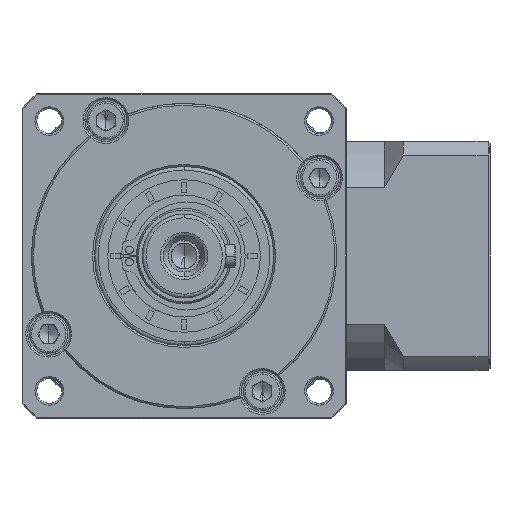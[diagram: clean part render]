
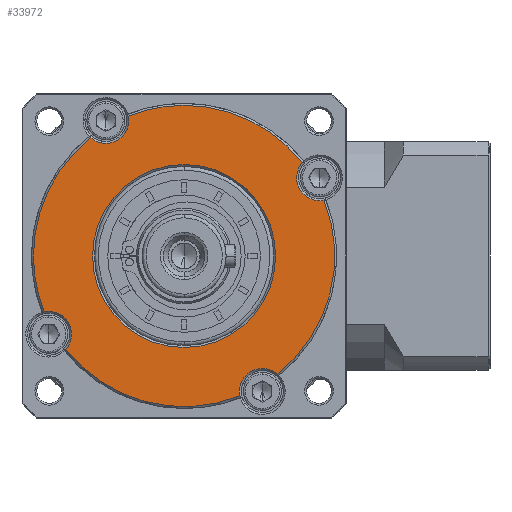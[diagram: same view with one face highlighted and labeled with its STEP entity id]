
A CAD part, left-side view. The second image highlights one B-rep face of the part: STEP entity #33972.
In plain terms, the highlighted planar face has unit normal (-1, 0, 0).
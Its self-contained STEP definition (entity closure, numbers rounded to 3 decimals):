
#184 = CIRCLE ( 'NONE', #112790, 39.5 ) ;
#6755 = DIRECTION ( 'NONE',  ( 0., 0., 1. ) ) ;
#8770 = CARTESIAN_POINT ( 'NONE',  ( -250.696, 35.181, -28.83 ) ) ;
#9344 = CARTESIAN_POINT ( 'NONE',  ( -250.696, 49.8, 7.865 ) ) ;
#9554 = CIRCLE ( 'NONE', #176601, 39.5 ) ;
#10088 = CARTESIAN_POINT ( 'NONE',  ( -250.696, 80.808, -16.605 ) ) ;
#10133 = AXIS2_PLACEMENT_3D ( 'NONE', #47979, #154420, #63245 ) ;
#11301 = PLANE ( 'NONE',  #92955 ) ;
#11965 = DIRECTION ( 'NONE',  ( 0., 0., -1. ) ) ;
#12203 = CIRCLE ( 'NONE', #71535, 39.5 ) ;
#12916 = CIRCLE ( 'NONE', #56134, 6. ) ;
#14829 = DIRECTION ( 'NONE',  ( 1., 0., 0. ) ) ;
#16557 = CIRCLE ( 'NONE', #66060, 24. ) ;
#17629 = VERTEX_POINT ( 'NONE', #47972 ) ;
#19547 = CIRCLE ( 'NONE', #36738, 6. ) ;
#24720 = DIRECTION ( 'NONE',  ( 0., -1., 0. ) ) ;
#24739 = CARTESIAN_POINT ( 'NONE',  ( -250.696, 49.8, 7.865 ) ) ;
#30775 = EDGE_CURVE ( 'NONE', #17629, #194660, #16557, .T. ) ;
#33972 = ADVANCED_FACE ( 'NONE', ( #194199, #132397 ), #11301, .T. ) ;
#34326 = ORIENTED_EDGE ( 'NONE', *, *, #192703, .T. ) ;
#35846 = CARTESIAN_POINT ( 'NONE',  ( -250.696, 25.33, -23.143 ) ) ;
#36738 = AXIS2_PLACEMENT_3D ( 'NONE', #86659, #193143, #101981 ) ;
#38368 = DIRECTION ( 'NONE',  ( 1., 0., 0. ) ) ;
#39221 = VERTEX_POINT ( 'NONE', #108881 ) ;
#39974 = DIRECTION ( 'NONE',  ( 0., 1., 0. ) ) ;
#41558 = CARTESIAN_POINT ( 'NONE',  ( -250.696, 18.792, 32.334 ) ) ;
#47972 = CARTESIAN_POINT ( 'NONE',  ( -250.696, 25.8, 7.865 ) ) ;
#47979 = CARTESIAN_POINT ( 'NONE',  ( -250.696, 49.8, 7.865 ) ) ;
#49663 = EDGE_CURVE ( 'NONE', #72157, #140821, #147771, .T. ) ;
#51123 = CIRCLE ( 'NONE', #122301, 6. ) ;
#51452 = EDGE_CURVE ( 'NONE', #85906, #39221, #184, .T. ) ;
#54471 = VERTEX_POINT ( 'NONE', #124529 ) ;
#55737 = DIRECTION ( 'NONE',  ( 1., 0., 0. ) ) ;
#56134 = AXIS2_PLACEMENT_3D ( 'NONE', #146894, #55737, #162175 ) ;
#57839 = DIRECTION ( 'NONE',  ( 1., 0., 0. ) ) ;
#62684 = ORIENTED_EDGE ( 'NONE', *, *, #64750, .T. ) ;
#63245 = DIRECTION ( 'NONE',  ( 0., 0., 1. ) ) ;
#63278 = CARTESIAN_POINT ( 'NONE',  ( -250.696, 14.293, 28.365 ) ) ;
#63629 = CARTESIAN_POINT ( 'NONE',  ( -250.696, 14.293, 28.365 ) ) ;
#64750 = EDGE_CURVE ( 'NONE', #85906, #174394, #19547, .T. ) ;
#64989 = CIRCLE ( 'NONE', #67780, 6. ) ;
#66060 = AXIS2_PLACEMENT_3D ( 'NONE', #148985, #57839, #164274 ) ;
#66721 = DIRECTION ( 'NONE',  ( 1., 0., 0. ) ) ;
#67564 = CIRCLE ( 'NONE', #10133, 39.5 ) ;
#67780 = AXIS2_PLACEMENT_3D ( 'NONE', #88309, #194789, #103630 ) ;
#68560 = DIRECTION ( 'NONE',  ( 1., 0., 0. ) ) ;
#71535 = AXIS2_PLACEMENT_3D ( 'NONE', #189047, #97861, #6755 ) ;
#71875 = ORIENTED_EDGE ( 'NONE', *, *, #30775, .T. ) ;
#72157 = VERTEX_POINT ( 'NONE', #152141 ) ;
#72698 = ORIENTED_EDGE ( 'NONE', *, *, #108501, .T. ) ;
#77180 = AXIS2_PLACEMENT_3D ( 'NONE', #129574, #38368, #144838 ) ;
#78226 = AXIS2_PLACEMENT_3D ( 'NONE', #9344, #115751, #24720 ) ;
#78538 = DIRECTION ( 'NONE',  ( 0., 0., -1. ) ) ;
#78903 = DIRECTION ( 'NONE',  ( 0., 0., -1. ) ) ;
#85906 = VERTEX_POINT ( 'NONE', #110050 ) ;
#86659 = CARTESIAN_POINT ( 'NONE',  ( -250.696, 85.307, -12.635 ) ) ;
#87519 = EDGE_CURVE ( 'NONE', #39221, #54471, #9554, .T. ) ;
#87678 = EDGE_CURVE ( 'NONE', #140821, #162926, #161728, .T. ) ;
#88309 = CARTESIAN_POINT ( 'NONE',  ( -250.696, 29.3, -27.642 ) ) ;
#92955 = AXIS2_PLACEMENT_3D ( 'NONE', #194224, #103089, #11965 ) ;
#93764 = CIRCLE ( 'NONE', #127063, 6. ) ;
#94603 = AXIS2_PLACEMENT_3D ( 'NONE', #63278, #169777, #78538 ) ;
#97501 = CARTESIAN_POINT ( 'NONE',  ( -250.696, 14.293, 22.365 ) ) ;
#97861 = DIRECTION ( 'NONE',  ( 1., 0., 0. ) ) ;
#99970 = CIRCLE ( 'NONE', #78226, 24. ) ;
#101981 = DIRECTION ( 'NONE',  ( 0., 0., -1. ) ) ;
#103089 = DIRECTION ( 'NONE',  ( -1., 0., 0. ) ) ;
#103586 = ORIENTED_EDGE ( 'NONE', *, *, #49663, .F. ) ;
#103630 = DIRECTION ( 'NONE',  ( 0., 0., -1. ) ) ;
#105946 = CARTESIAN_POINT ( 'NONE',  ( -250.696, 70.3, 43.372 ) ) ;
#108501 = EDGE_CURVE ( 'NONE', #182075, #189482, #93764, .T. ) ;
#108881 = CARTESIAN_POINT ( 'NONE',  ( -250.696, 89.3, 7.865 ) ) ;
#110050 = CARTESIAN_POINT ( 'NONE',  ( -250.696, 86.495, -6.754 ) ) ;
#112790 = AXIS2_PLACEMENT_3D ( 'NONE', #24739, #131156, #39974 ) ;
#115751 = DIRECTION ( 'NONE',  ( 1., 0., 0. ) ) ;
#116611 = ORIENTED_EDGE ( 'NONE', *, *, #87519, .F. ) ;
#121225 = DIRECTION ( 'NONE',  ( 0., 0., -1. ) ) ;
#122129 = ORIENTED_EDGE ( 'NONE', *, *, #160613, .T. ) ;
#122301 = AXIS2_PLACEMENT_3D ( 'NONE', #105946, #14829, #121225 ) ;
#123790 = VERTEX_POINT ( 'NONE', #35846 ) ;
#124529 = CARTESIAN_POINT ( 'NONE',  ( -250.696, 74.27, 38.873 ) ) ;
#125417 = CARTESIAN_POINT ( 'NONE',  ( -250.696, 70.3, 37.372 ) ) ;
#127063 = AXIS2_PLACEMENT_3D ( 'NONE', #63629, #170121, #78903 ) ;
#129574 = CARTESIAN_POINT ( 'NONE',  ( -250.696, 49.8, 7.865 ) ) ;
#131156 = DIRECTION ( 'NONE',  ( 1., 0., 0. ) ) ;
#132397 = FACE_BOUND ( 'NONE', #153527, .T. ) ;
#138277 = EDGE_CURVE ( 'NONE', #166869, #54471, #51123, .T. ) ;
#140821 = VERTEX_POINT ( 'NONE', #183764 ) ;
#144838 = DIRECTION ( 'NONE',  ( 0., 0., 1. ) ) ;
#144961 = ORIENTED_EDGE ( 'NONE', *, *, #173034, .F. ) ;
#146894 = CARTESIAN_POINT ( 'NONE',  ( -250.696, 70.3, 43.372 ) ) ;
#147771 = CIRCLE ( 'NONE', #173720, 39.5 ) ;
#148985 = CARTESIAN_POINT ( 'NONE',  ( -250.696, 49.8, 7.865 ) ) ;
#152141 = CARTESIAN_POINT ( 'NONE',  ( -250.696, 64.419, 44.56 ) ) ;
#153527 = EDGE_LOOP ( 'NONE', ( #71875, #34326 ) ) ;
#154420 = DIRECTION ( 'NONE',  ( 1., 0., 0. ) ) ;
#157190 = ORIENTED_EDGE ( 'NONE', *, *, #191226, .T. ) ;
#157357 = ORIENTED_EDGE ( 'NONE', *, *, #51452, .F. ) ;
#157847 = CARTESIAN_POINT ( 'NONE',  ( -250.696, 49.8, 7.865 ) ) ;
#159699 = EDGE_CURVE ( 'NONE', #189482, #162926, #194397, .T. ) ;
#159714 = CARTESIAN_POINT ( 'NONE',  ( -250.696, 49.8, 7.865 ) ) ;
#159807 = CARTESIAN_POINT ( 'NONE',  ( -250.696, 73.8, 7.865 ) ) ;
#160613 = EDGE_CURVE ( 'NONE', #72157, #166869, #12916, .T. ) ;
#161728 = CIRCLE ( 'NONE', #77180, 39.5 ) ;
#162175 = DIRECTION ( 'NONE',  ( 0., 0., -1. ) ) ;
#162826 = ORIENTED_EDGE ( 'NONE', *, *, #87678, .F. ) ;
#162926 = VERTEX_POINT ( 'NONE', #41558 ) ;
#164274 = DIRECTION ( 'NONE',  ( 0., -1., 0. ) ) ;
#166869 = VERTEX_POINT ( 'NONE', #125417 ) ;
#169777 = DIRECTION ( 'NONE',  ( 1., 0., 0. ) ) ;
#170121 = DIRECTION ( 'NONE',  ( 1., 0., 0. ) ) ;
#172777 = ORIENTED_EDGE ( 'NONE', *, *, #159699, .T. ) ;
#173034 = EDGE_CURVE ( 'NONE', #174319, #174394, #67564, .T. ) ;
#173141 = DIRECTION ( 'NONE',  ( 0., 1., 0. ) ) ;
#173720 = AXIS2_PLACEMENT_3D ( 'NONE', #159714, #68560, #175037 ) ;
#174319 = VERTEX_POINT ( 'NONE', #8770 ) ;
#174394 = VERTEX_POINT ( 'NONE', #10088 ) ;
#175037 = DIRECTION ( 'NONE',  ( 0., 0., 1. ) ) ;
#176601 = AXIS2_PLACEMENT_3D ( 'NONE', #157847, #66721, #173141 ) ;
#177454 = CARTESIAN_POINT ( 'NONE',  ( -250.696, 13.105, 22.484 ) ) ;
#178227 = ORIENTED_EDGE ( 'NONE', *, *, #184199, .F. ) ;
#182075 = VERTEX_POINT ( 'NONE', #177454 ) ;
#183764 = CARTESIAN_POINT ( 'NONE',  ( -250.696, 49.8, 47.365 ) ) ;
#184199 = EDGE_CURVE ( 'NONE', #182075, #123790, #12203, .T. ) ;
#185399 = EDGE_LOOP ( 'NONE', ( #103586, #122129, #190029, #116611, #157357, #62684, #144961, #157190, #178227, #72698, #172777, #162826 ) ) ;
#189047 = CARTESIAN_POINT ( 'NONE',  ( -250.696, 49.8, 7.865 ) ) ;
#189482 = VERTEX_POINT ( 'NONE', #97501 ) ;
#190029 = ORIENTED_EDGE ( 'NONE', *, *, #138277, .T. ) ;
#191226 = EDGE_CURVE ( 'NONE', #174319, #123790, #64989, .T. ) ;
#192703 = EDGE_CURVE ( 'NONE', #194660, #17629, #99970, .T. ) ;
#193143 = DIRECTION ( 'NONE',  ( 1., 0., 0. ) ) ;
#194199 = FACE_OUTER_BOUND ( 'NONE', #185399, .T. ) ;
#194224 = CARTESIAN_POINT ( 'NONE',  ( -250.696, 49.8, 7.865 ) ) ;
#194397 = CIRCLE ( 'NONE', #94603, 6. ) ;
#194660 = VERTEX_POINT ( 'NONE', #159807 ) ;
#194789 = DIRECTION ( 'NONE',  ( 1., 0., 0. ) ) ;
